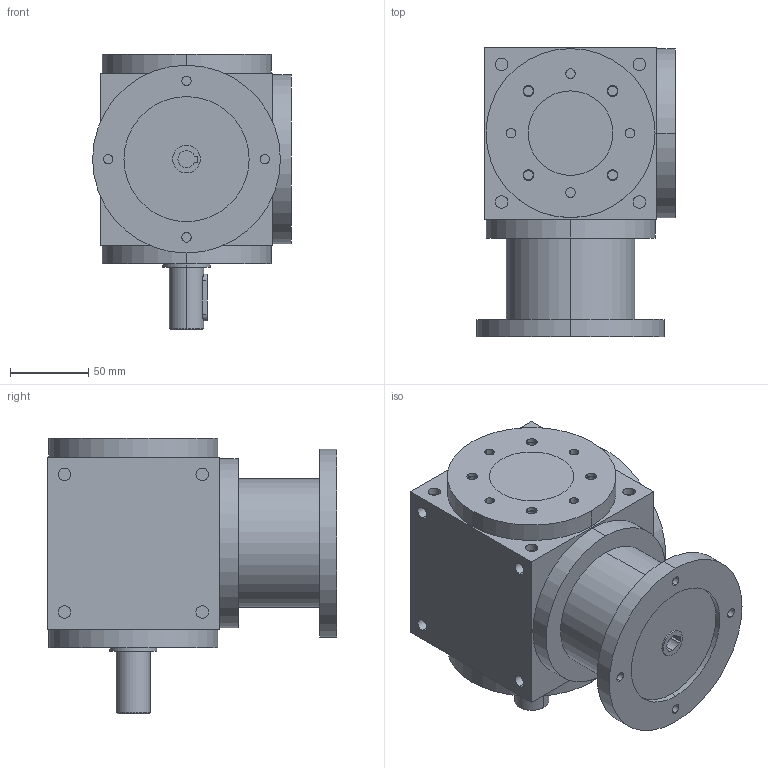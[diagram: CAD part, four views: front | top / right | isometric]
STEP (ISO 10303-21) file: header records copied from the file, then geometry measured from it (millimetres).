
FILE_DESCRIPTION (( 'STEP AP203' ), '1' );
FILE_NAME ('HDF-11-1-C.step', '2018-06-30T08:34:11', ( 'Windows 蚚誧' ), ( '' ), 'SwSTEP 2.0', 'SolidWorks 2016', '' );
FILE_SCHEMA (( 'CONFIG_CONTROL_DESIGN' ));
Length unit declared in the file: millimetre
Products named in the file (1): HDF-11-1-C
Bounding box: 127 x 185 x 176 mm (x, y, z)
Volume: 2154257.2 mm3; surface area: 186812.5 mm2
Topology: 5 solids, 5 shells, 185 faces, 377 edges, 252 vertices
Faces by surface type: cylinder 114, plane 69, cone 2
Entity records: 5128 total; most frequent: DIRECTION 977, CARTESIAN_POINT 886, ORIENTED_EDGE 754, AXIS2_PLACEMENT_3D 417, EDGE_CURVE 377, VERTEX_POINT 252, EDGE_LOOP 243, CIRCLE 231
